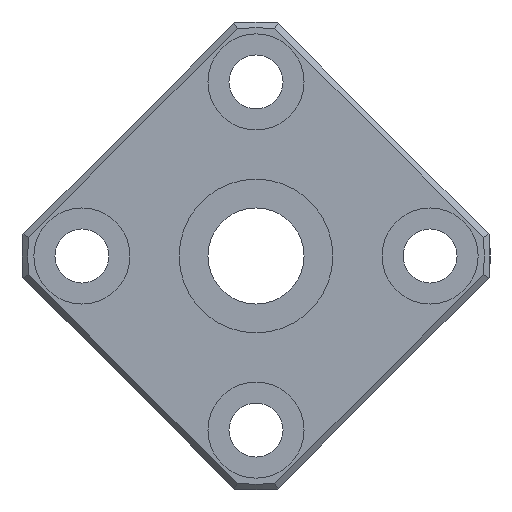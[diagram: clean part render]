
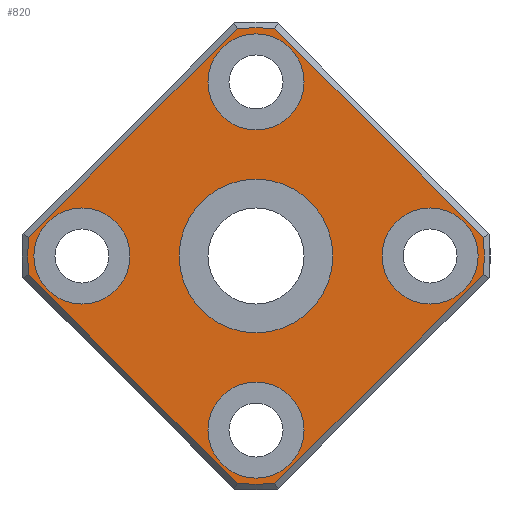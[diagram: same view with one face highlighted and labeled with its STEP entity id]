
A CAD part, left-side view. The second image highlights one B-rep face of the part: STEP entity #820.
In plain terms, the highlighted planar face has unit normal (-1, 0, 0).
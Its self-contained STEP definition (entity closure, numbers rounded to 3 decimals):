
#499=CARTESIAN_POINT('',(0.,-18.935,-1.571));
#500=VERTEX_POINT('',#499);
#508=CARTESIAN_POINT('',(0.,-1.571,-18.935));
#509=VERTEX_POINT('',#508);
#510=CARTESIAN_POINT('',(0.,-18.935,-1.571));
#511=DIRECTION('',(0.0,0.707,-0.707));
#512=VECTOR('',#511,24.556);
#513=LINE('',#510,#512);
#514=EDGE_CURVE('',#500,#509,#513,.T.);
#541=CARTESIAN_POINT('',(0.,1.571,-18.935));
#542=VERTEX_POINT('',#541);
#543=CARTESIAN_POINT('',(0.,0.0,0.0));
#544=DIRECTION('',(1.0,0.0,0.0));
#545=DIRECTION('',(0.0,0.0,-1.0));
#546=AXIS2_PLACEMENT_3D('',#543,#544,#545);
#547=CIRCLE('',#546,19.0);
#548=EDGE_CURVE('',#509,#542,#547,.T.);
#572=CARTESIAN_POINT('',(0.,18.935,-1.571));
#573=VERTEX_POINT('',#572);
#574=CARTESIAN_POINT('',(0.,1.571,-18.935));
#575=DIRECTION('',(0.0,0.707,0.707));
#576=VECTOR('',#575,24.556);
#577=LINE('',#574,#576);
#578=EDGE_CURVE('',#542,#573,#577,.T.);
#597=CARTESIAN_POINT('',(0.,18.935,1.571));
#598=VERTEX_POINT('',#597);
#599=CARTESIAN_POINT('',(0.,0.0,0.0));
#600=DIRECTION('',(1.0,0.0,0.0));
#601=DIRECTION('',(0.0,0.0,1.0));
#602=AXIS2_PLACEMENT_3D('',#599,#600,#601);
#603=CIRCLE('',#602,19.0);
#604=EDGE_CURVE('',#573,#598,#603,.T.);
#623=CARTESIAN_POINT('',(0.,1.571,18.935));
#624=VERTEX_POINT('',#623);
#625=CARTESIAN_POINT('',(0.,18.935,1.571));
#626=DIRECTION('',(0.0,-0.707,0.707));
#627=VECTOR('',#626,24.556);
#628=LINE('',#625,#627);
#629=EDGE_CURVE('',#598,#624,#628,.T.);
#648=CARTESIAN_POINT('',(0.,-1.571,18.935));
#649=VERTEX_POINT('',#648);
#650=CARTESIAN_POINT('',(0.,0.0,0.0));
#651=DIRECTION('',(1.0,0.0,0.0));
#652=DIRECTION('',(0.0,0.0,1.0));
#653=AXIS2_PLACEMENT_3D('',#650,#651,#652);
#654=CIRCLE('',#653,19.0);
#655=EDGE_CURVE('',#624,#649,#654,.T.);
#674=CARTESIAN_POINT('',(0.,-18.935,1.571));
#675=VERTEX_POINT('',#674);
#676=CARTESIAN_POINT('',(0.,-1.571,18.935));
#677=DIRECTION('',(0.0,-0.707,-0.707));
#678=VECTOR('',#677,24.556);
#679=LINE('',#676,#678);
#680=EDGE_CURVE('',#649,#675,#679,.T.);
#705=CARTESIAN_POINT('',(0.,0.0,0.0));
#706=DIRECTION('',(1.0,0.0,0.0));
#707=DIRECTION('',(0.0,0.0,1.0));
#708=AXIS2_PLACEMENT_3D('',#705,#706,#707);
#709=CIRCLE('',#708,19.0);
#710=EDGE_CURVE('',#675,#500,#709,.T.);
#750=CARTESIAN_POINT('',(0.,0.0,7.95));
#751=DIRECTION('',(-1.0,0.0,0.0));
#752=DIRECTION('',(0.0,0.0,1.0));
#753=AXIS2_PLACEMENT_3D('',#750,#751,#752);
#754=PLANE('',#753);
#755=ORIENTED_EDGE('',*,*,#514,.F.);
#756=ORIENTED_EDGE('',*,*,#710,.F.);
#757=ORIENTED_EDGE('',*,*,#680,.F.);
#758=ORIENTED_EDGE('',*,*,#655,.F.);
#759=ORIENTED_EDGE('',*,*,#629,.F.);
#760=ORIENTED_EDGE('',*,*,#604,.F.);
#761=ORIENTED_EDGE('',*,*,#578,.F.);
#762=ORIENTED_EDGE('',*,*,#548,.F.);
#763=EDGE_LOOP('',(#755,#756,#757,#758,#759,#760,#761,#762));
#764=FACE_OUTER_BOUND('',#763,.T.);
#765=CARTESIAN_POINT('',(0.,0.0,6.4));
#766=VERTEX_POINT('',#765);
#767=CARTESIAN_POINT('',(0.,0.0,0.0));
#768=DIRECTION('',(-1.0,0.0,0.0));
#769=DIRECTION('',(0.0,0.0,1.0));
#770=AXIS2_PLACEMENT_3D('',#767,#768,#769);
#771=CIRCLE('',#770,6.4);
#772=EDGE_CURVE('',#766,#766,#771,.T.);
#773=ORIENTED_EDGE('',*,*,#772,.F.);
#774=EDGE_LOOP('',(#773));
#775=FACE_BOUND('',#774,.T.);
#776=CARTESIAN_POINT('',(0.0,-10.5,0.));
#777=VERTEX_POINT('',#776);
#778=CARTESIAN_POINT('',(0.,-14.5,0.));
#779=DIRECTION('',(1.0,0.0,0.0));
#780=DIRECTION('',(0.0,1.0,0.0));
#781=AXIS2_PLACEMENT_3D('',#778,#779,#780);
#782=CIRCLE('',#781,4.0);
#783=EDGE_CURVE('',#777,#777,#782,.T.);
#784=ORIENTED_EDGE('',*,*,#783,.T.);
#785=EDGE_LOOP('',(#784));
#786=FACE_BOUND('',#785,.T.);
#787=CARTESIAN_POINT('',(0.0,18.5,0.));
#788=VERTEX_POINT('',#787);
#789=CARTESIAN_POINT('',(0.,14.5,0.));
#790=DIRECTION('',(1.0,0.0,0.0));
#791=DIRECTION('',(0.0,1.0,0.0));
#792=AXIS2_PLACEMENT_3D('',#789,#790,#791);
#793=CIRCLE('',#792,4.0);
#794=EDGE_CURVE('',#788,#788,#793,.T.);
#795=ORIENTED_EDGE('',*,*,#794,.T.);
#796=EDGE_LOOP('',(#795));
#797=FACE_BOUND('',#796,.T.);
#798=CARTESIAN_POINT('',(0.0,4.,14.5));
#799=VERTEX_POINT('',#798);
#800=CARTESIAN_POINT('',(0.,0.,14.5));
#801=DIRECTION('',(1.0,0.0,0.0));
#802=DIRECTION('',(0.0,1.0,0.0));
#803=AXIS2_PLACEMENT_3D('',#800,#801,#802);
#804=CIRCLE('',#803,4.0);
#805=EDGE_CURVE('',#799,#799,#804,.T.);
#806=ORIENTED_EDGE('',*,*,#805,.T.);
#807=EDGE_LOOP('',(#806));
#808=FACE_BOUND('',#807,.T.);
#809=CARTESIAN_POINT('',(0.0,4.,-14.5));
#810=VERTEX_POINT('',#809);
#811=CARTESIAN_POINT('',(0.,0.,-14.5));
#812=DIRECTION('',(1.0,0.0,0.0));
#813=DIRECTION('',(0.0,1.0,0.0));
#814=AXIS2_PLACEMENT_3D('',#811,#812,#813);
#815=CIRCLE('',#814,4.0);
#816=EDGE_CURVE('',#810,#810,#815,.T.);
#817=ORIENTED_EDGE('',*,*,#816,.T.);
#818=EDGE_LOOP('',(#817));
#819=FACE_BOUND('',#818,.T.);
#820=ADVANCED_FACE('',(#764,#775,#786,#797,#808,#819),#754,.T.);
